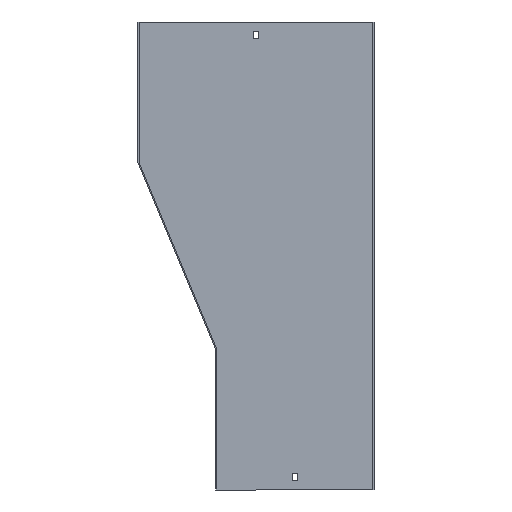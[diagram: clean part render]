
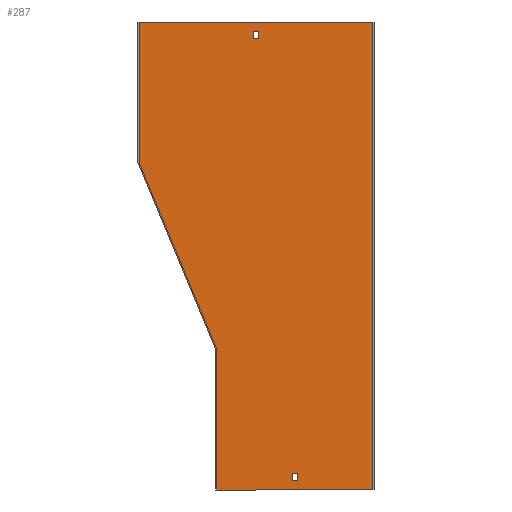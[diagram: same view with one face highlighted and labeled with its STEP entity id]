
A CAD part, front view. The second image highlights one B-rep face of the part: STEP entity #287.
In plain terms, the highlighted planar face has unit normal (0, -1, 0).
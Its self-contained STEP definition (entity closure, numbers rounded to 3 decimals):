
#15 = VERTEX_POINT ( 'NONE', #514 ) ;
#17 = LINE ( 'NONE', #78, #162 ) ;
#22 = DIRECTION ( 'NONE',  ( 1., 0., 0. ) ) ;
#30 = EDGE_CURVE ( 'NONE', #599, #159, #17, .T. ) ;
#35 = EDGE_CURVE ( 'NONE', #15, #424, #236, .T. ) ;
#42 = VECTOR ( 'NONE', #348, 1000. ) ;
#50 = VERTEX_POINT ( 'NONE', #687 ) ;
#51 = CARTESIAN_POINT ( 'NONE',  ( -3.25, -1.5, 0. ) ) ;
#60 = DIRECTION ( 'NONE',  ( -0.385, 0., 0.923 ) ) ;
#63 = CARTESIAN_POINT ( 'NONE',  ( -150., -1.5, -179.7 ) ) ;
#66 = CARTESIAN_POINT ( 'NONE',  ( -3.25, -1.5, -12. ) ) ;
#71 = LINE ( 'NONE', #117, #42 ) ;
#78 = CARTESIAN_POINT ( 'NONE',  ( 150., -1.5, -600. ) ) ;
#81 = VECTOR ( 'NONE', #586, 1000. ) ;
#85 = EDGE_LOOP ( 'NONE', ( #667, #561, #116, #368 ) ) ;
#115 = CARTESIAN_POINT ( 'NONE',  ( 46.75, -1.5, -579. ) ) ;
#116 = ORIENTED_EDGE ( 'NONE', *, *, #157, .F. ) ;
#117 = CARTESIAN_POINT ( 'NONE',  ( 0., -1.5, -579. ) ) ;
#130 = DIRECTION ( 'NONE',  ( 0., 0., -1. ) ) ;
#146 = CARTESIAN_POINT ( 'NONE',  ( 53.25, -1.5, 0. ) ) ;
#157 = EDGE_CURVE ( 'NONE', #424, #471, #520, .T. ) ;
#159 = VERTEX_POINT ( 'NONE', #707 ) ;
#160 = CARTESIAN_POINT ( 'NONE',  ( -50., -1.5, -419.7 ) ) ;
#162 = VECTOR ( 'NONE', #130, 1000. ) ;
#163 = ORIENTED_EDGE ( 'NONE', *, *, #666, .F. ) ;
#164 = VECTOR ( 'NONE', #216, 1000. ) ;
#172 = ORIENTED_EDGE ( 'NONE', *, *, #515, .F. ) ;
#173 = DIRECTION ( 'NONE',  ( 0., 0., -1. ) ) ;
#175 = VERTEX_POINT ( 'NONE', #189 ) ;
#189 = CARTESIAN_POINT ( 'NONE',  ( -50., -1.5, -600. ) ) ;
#191 = CARTESIAN_POINT ( 'NONE',  ( 0., -1.5, -588. ) ) ;
#199 = CARTESIAN_POINT ( 'NONE',  ( 3.25, -1.5, -12. ) ) ;
#216 = DIRECTION ( 'NONE',  ( 0., 0., 1. ) ) ;
#228 = CARTESIAN_POINT ( 'NONE',  ( -150., -1.5, 0. ) ) ;
#236 = LINE ( 'NONE', #464, #398 ) ;
#264 = EDGE_CURVE ( 'NONE', #471, #644, #327, .T. ) ;
#270 = LINE ( 'NONE', #425, #684 ) ;
#278 = CARTESIAN_POINT ( 'NONE',  ( 150., -1.5, 0. ) ) ;
#287 = ADVANCED_FACE ( 'NONE', ( #448, #670, #685 ), #455, .T. ) ;
#292 = DIRECTION ( 'NONE',  ( 0., 0., -1. ) ) ;
#303 = DIRECTION ( 'NONE',  ( 0., -1., 0. ) ) ;
#308 = DIRECTION ( 'NONE',  ( 0., 0., 1. ) ) ;
#327 = LINE ( 'NONE', #497, #433 ) ;
#334 = CARTESIAN_POINT ( 'NONE',  ( 46.75, -1.5, 0. ) ) ;
#347 = VERTEX_POINT ( 'NONE', #115 ) ;
#348 = DIRECTION ( 'NONE',  ( -1., 0., 0. ) ) ;
#350 = DIRECTION ( 'NONE',  ( 1., 0., 0. ) ) ;
#356 = CARTESIAN_POINT ( 'NONE',  ( 3.25, -1.5, 0. ) ) ;
#365 = VECTOR ( 'NONE', #173, 1000. ) ;
#368 = ORIENTED_EDGE ( 'NONE', *, *, #35, .F. ) ;
#380 = CARTESIAN_POINT ( 'NONE',  ( -51.5, -1.5, -600. ) ) ;
#382 = VERTEX_POINT ( 'NONE', #228 ) ;
#386 = CARTESIAN_POINT ( 'NONE',  ( -150.115, -1.5, -179.423 ) ) ;
#391 = LINE ( 'NONE', #334, #365 ) ;
#398 = VECTOR ( 'NONE', #350, 1000. ) ;
#407 = VERTEX_POINT ( 'NONE', #620 ) ;
#421 = LINE ( 'NONE', #51, #479 ) ;
#424 = VERTEX_POINT ( 'NONE', #428 ) ;
#425 = CARTESIAN_POINT ( 'NONE',  ( -50., -1.5, -420. ) ) ;
#427 = ORIENTED_EDGE ( 'NONE', *, *, #581, .F. ) ;
#428 = CARTESIAN_POINT ( 'NONE',  ( 3.25, -1.5, -21. ) ) ;
#433 = VECTOR ( 'NONE', #552, 1000. ) ;
#437 = LINE ( 'NONE', #551, #492 ) ;
#438 = EDGE_CURVE ( 'NONE', #159, #175, #642, .T. ) ;
#440 = EDGE_LOOP ( 'NONE', ( #716, #163, #530, #553 ) ) ;
#442 = EDGE_CURVE ( 'NONE', #458, #50, #600, .T. ) ;
#448 = FACE_BOUND ( 'NONE', #440, .T. ) ;
#454 = LINE ( 'NONE', #386, #574 ) ;
#455 = PLANE ( 'NONE',  #632 ) ;
#457 = EDGE_LOOP ( 'NONE', ( #649, #427, #481, #172, #689, #477 ) ) ;
#458 = VERTEX_POINT ( 'NONE', #531 ) ;
#464 = CARTESIAN_POINT ( 'NONE',  ( 0., -1.5, -21. ) ) ;
#471 = VERTEX_POINT ( 'NONE', #199 ) ;
#477 = ORIENTED_EDGE ( 'NONE', *, *, #30, .F. ) ;
#479 = VECTOR ( 'NONE', #646, 1000. ) ;
#481 = ORIENTED_EDGE ( 'NONE', *, *, #618, .F. ) ;
#490 = VECTOR ( 'NONE', #308, 1000. ) ;
#492 = VECTOR ( 'NONE', #496, 1000. ) ;
#495 = EDGE_CURVE ( 'NONE', #644, #15, #421, .T. ) ;
#496 = DIRECTION ( 'NONE',  ( 1., 0., 0. ) ) ;
#497 = CARTESIAN_POINT ( 'NONE',  ( 0., -1.5, -12. ) ) ;
#504 = VECTOR ( 'NONE', #22, 1000. ) ;
#507 = LINE ( 'NONE', #720, #164 ) ;
#514 = CARTESIAN_POINT ( 'NONE',  ( -3.25, -1.5, -21. ) ) ;
#515 = EDGE_CURVE ( 'NONE', #175, #592, #270, .T. ) ;
#520 = LINE ( 'NONE', #356, #490 ) ;
#530 = ORIENTED_EDGE ( 'NONE', *, *, #442, .F. ) ;
#531 = CARTESIAN_POINT ( 'NONE',  ( 53.25, -1.5, -588. ) ) ;
#535 = DIRECTION ( 'NONE',  ( 0., 0., 1. ) ) ;
#539 = EDGE_CURVE ( 'NONE', #382, #599, #437, .T. ) ;
#551 = CARTESIAN_POINT ( 'NONE',  ( 151.5, -1.5, 0. ) ) ;
#552 = DIRECTION ( 'NONE',  ( -1., 0., 0. ) ) ;
#553 = ORIENTED_EDGE ( 'NONE', *, *, #718, .F. ) ;
#561 = ORIENTED_EDGE ( 'NONE', *, *, #264, .F. ) ;
#574 = VECTOR ( 'NONE', #60, 1000. ) ;
#581 = EDGE_CURVE ( 'NONE', #655, #382, #507, .T. ) ;
#586 = DIRECTION ( 'NONE',  ( -1., 0., 0. ) ) ;
#590 = DIRECTION ( 'NONE',  ( 0., 0., 1. ) ) ;
#592 = VERTEX_POINT ( 'NONE', #160 ) ;
#599 = VERTEX_POINT ( 'NONE', #278 ) ;
#600 = LINE ( 'NONE', #146, #710 ) ;
#618 = EDGE_CURVE ( 'NONE', #592, #655, #454, .T. ) ;
#620 = CARTESIAN_POINT ( 'NONE',  ( 46.75, -1.5, -588. ) ) ;
#632 = AXIS2_PLACEMENT_3D ( 'NONE', #688, #303, #292 ) ;
#642 = LINE ( 'NONE', #380, #81 ) ;
#644 = VERTEX_POINT ( 'NONE', #66 ) ;
#646 = DIRECTION ( 'NONE',  ( 0., 0., -1. ) ) ;
#647 = EDGE_CURVE ( 'NONE', #347, #407, #391, .T. ) ;
#649 = ORIENTED_EDGE ( 'NONE', *, *, #539, .F. ) ;
#655 = VERTEX_POINT ( 'NONE', #63 ) ;
#666 = EDGE_CURVE ( 'NONE', #50, #347, #71, .T. ) ;
#667 = ORIENTED_EDGE ( 'NONE', *, *, #495, .F. ) ;
#670 = FACE_BOUND ( 'NONE', #85, .T. ) ;
#684 = VECTOR ( 'NONE', #590, 1000. ) ;
#685 = FACE_OUTER_BOUND ( 'NONE', #457, .T. ) ;
#687 = CARTESIAN_POINT ( 'NONE',  ( 53.25, -1.5, -579. ) ) ;
#688 = CARTESIAN_POINT ( 'NONE',  ( 0., -1.5, 0. ) ) ;
#689 = ORIENTED_EDGE ( 'NONE', *, *, #438, .F. ) ;
#697 = LINE ( 'NONE', #191, #504 ) ;
#707 = CARTESIAN_POINT ( 'NONE',  ( 150., -1.5, -600. ) ) ;
#710 = VECTOR ( 'NONE', #535, 1000. ) ;
#716 = ORIENTED_EDGE ( 'NONE', *, *, #647, .F. ) ;
#718 = EDGE_CURVE ( 'NONE', #407, #458, #697, .T. ) ;
#720 = CARTESIAN_POINT ( 'NONE',  ( -150., -1.5, 0. ) ) ;
